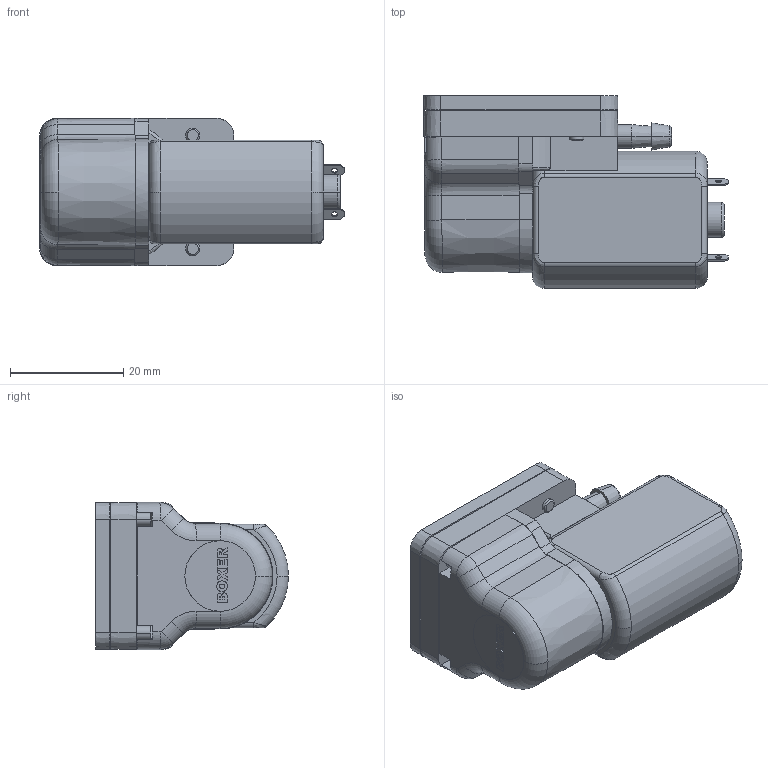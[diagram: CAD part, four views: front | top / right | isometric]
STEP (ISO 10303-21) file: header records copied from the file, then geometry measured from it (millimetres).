
FILE_DESCRIPTION (( 'STEP AP203' ), '1' );
FILE_NAME ('1100.211.STEP', '2019-08-26T16:14:11', ( '' ), ( '' ), 'SwSTEP 2.0', 'SolidWorks 2015', '' );
FILE_SCHEMA (( 'CONFIG_CONTROL_DESIGN' ));
Length unit declared in the file: millimetre
Products named in the file (1): 1100.211
Bounding box: 53.77 x 34.05 x 26 mm (x, y, z)
Surface area: 9513.3 mm2 (no closed solid volume)
Topology: 0 solids, 12 shells, 412 faces, 1304 edges, 904 vertices
Faces by surface type: plane 191, cone 74, cylinder 73, bspline 40, torus 26, sphere 8
Entity records: 16758 total; most frequent: CARTESIAN_POINT 5452, DIRECTION 2261, ORIENTED_EDGE 2218, EDGE_CURVE 1304, VERTEX_POINT 904, AXIS2_PLACEMENT_3D 801, VECTOR 659, LINE 659
